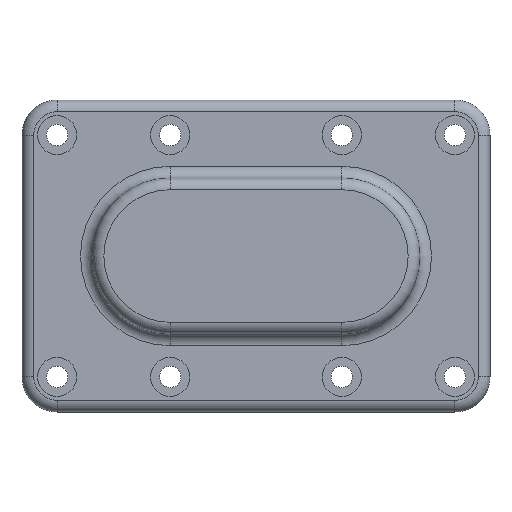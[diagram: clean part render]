
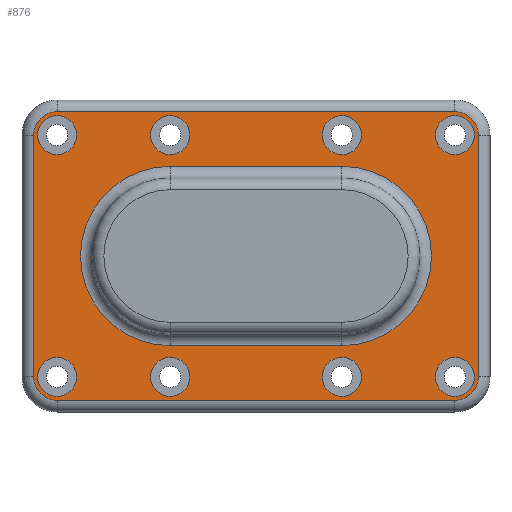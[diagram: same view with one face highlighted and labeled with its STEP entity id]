
A CAD part, left-side view. The second image highlights one B-rep face of the part: STEP entity #876.
In plain terms, the highlighted planar face has unit normal (-1, 0, 0).
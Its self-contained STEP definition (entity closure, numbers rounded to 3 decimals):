
#15=FACE_BOUND('',#145,.T.);
#16=FACE_BOUND('',#146,.T.);
#17=FACE_BOUND('',#147,.T.);
#18=FACE_BOUND('',#148,.T.);
#19=FACE_BOUND('',#149,.T.);
#20=FACE_BOUND('',#150,.T.);
#21=FACE_BOUND('',#151,.T.);
#22=FACE_BOUND('',#152,.T.);
#23=FACE_BOUND('',#153,.T.);
#54=PLANE('',#980);
#85=FACE_OUTER_BOUND('',#144,.T.);
#144=EDGE_LOOP('',(#642,#643,#644,#645,#646,#647,#648,#649));
#145=EDGE_LOOP('',(#650,#651,#652,#653));
#146=EDGE_LOOP('',(#654));
#147=EDGE_LOOP('',(#655));
#148=EDGE_LOOP('',(#656));
#149=EDGE_LOOP('',(#657));
#150=EDGE_LOOP('',(#658));
#151=EDGE_LOOP('',(#659));
#152=EDGE_LOOP('',(#660));
#153=EDGE_LOOP('',(#661));
#217=LINE('',#1416,#267);
#219=LINE('',#1428,#269);
#221=LINE('',#1440,#271);
#222=LINE('',#1448,#272);
#231=LINE('',#1471,#281);
#232=LINE('',#1475,#282);
#267=VECTOR('',#1108,10.);
#269=VECTOR('',#1122,10.);
#271=VECTOR('',#1136,10.);
#272=VECTOR('',#1147,10.);
#281=VECTOR('',#1170,10.);
#282=VECTOR('',#1173,10.);
#319=CIRCLE('',#952,6.);
#325=CIRCLE('',#960,6.);
#329=CIRCLE('',#966,6.);
#333=CIRCLE('',#972,6.);
#336=CIRCLE('',#981,23.);
#337=CIRCLE('',#982,23.);
#338=CIRCLE('',#983,5.);
#339=CIRCLE('',#984,5.);
#340=CIRCLE('',#985,5.);
#341=CIRCLE('',#986,5.);
#342=CIRCLE('',#987,5.);
#343=CIRCLE('',#988,5.);
#344=CIRCLE('',#989,5.);
#345=CIRCLE('',#990,5.);
#391=VERTEX_POINT('',#1404);
#392=VERTEX_POINT('',#1406);
#394=VERTEX_POINT('',#1412);
#396=VERTEX_POINT('',#1418);
#398=VERTEX_POINT('',#1424);
#400=VERTEX_POINT('',#1430);
#402=VERTEX_POINT('',#1436);
#404=VERTEX_POINT('',#1442);
#411=VERTEX_POINT('',#1469);
#412=VERTEX_POINT('',#1470);
#413=VERTEX_POINT('',#1472);
#414=VERTEX_POINT('',#1474);
#415=VERTEX_POINT('',#1477);
#416=VERTEX_POINT('',#1479);
#417=VERTEX_POINT('',#1481);
#418=VERTEX_POINT('',#1483);
#419=VERTEX_POINT('',#1485);
#420=VERTEX_POINT('',#1487);
#421=VERTEX_POINT('',#1489);
#422=VERTEX_POINT('',#1491);
#469=EDGE_CURVE('',#391,#392,#319,.T.);
#474=EDGE_CURVE('',#392,#394,#217,.T.);
#477=EDGE_CURVE('',#394,#396,#325,.T.);
#480=EDGE_CURVE('',#396,#398,#219,.T.);
#483=EDGE_CURVE('',#398,#400,#329,.T.);
#486=EDGE_CURVE('',#400,#402,#221,.T.);
#489=EDGE_CURVE('',#402,#404,#333,.T.);
#490=EDGE_CURVE('',#404,#391,#222,.T.);
#501=EDGE_CURVE('',#411,#412,#231,.T.);
#502=EDGE_CURVE('',#413,#411,#336,.T.);
#503=EDGE_CURVE('',#414,#413,#232,.T.);
#504=EDGE_CURVE('',#412,#414,#337,.T.);
#505=EDGE_CURVE('',#415,#415,#338,.T.);
#506=EDGE_CURVE('',#416,#416,#339,.T.);
#507=EDGE_CURVE('',#417,#417,#340,.T.);
#508=EDGE_CURVE('',#418,#418,#341,.T.);
#509=EDGE_CURVE('',#419,#419,#342,.T.);
#510=EDGE_CURVE('',#420,#420,#343,.T.);
#511=EDGE_CURVE('',#421,#421,#344,.T.);
#512=EDGE_CURVE('',#422,#422,#345,.T.);
#642=ORIENTED_EDGE('',*,*,#469,.F.);
#643=ORIENTED_EDGE('',*,*,#490,.F.);
#644=ORIENTED_EDGE('',*,*,#489,.F.);
#645=ORIENTED_EDGE('',*,*,#486,.F.);
#646=ORIENTED_EDGE('',*,*,#483,.F.);
#647=ORIENTED_EDGE('',*,*,#480,.F.);
#648=ORIENTED_EDGE('',*,*,#477,.F.);
#649=ORIENTED_EDGE('',*,*,#474,.F.);
#650=ORIENTED_EDGE('',*,*,#501,.F.);
#651=ORIENTED_EDGE('',*,*,#502,.F.);
#652=ORIENTED_EDGE('',*,*,#503,.F.);
#653=ORIENTED_EDGE('',*,*,#504,.F.);
#654=ORIENTED_EDGE('',*,*,#505,.T.);
#655=ORIENTED_EDGE('',*,*,#506,.T.);
#656=ORIENTED_EDGE('',*,*,#507,.T.);
#657=ORIENTED_EDGE('',*,*,#508,.T.);
#658=ORIENTED_EDGE('',*,*,#509,.T.);
#659=ORIENTED_EDGE('',*,*,#510,.T.);
#660=ORIENTED_EDGE('',*,*,#511,.T.);
#661=ORIENTED_EDGE('',*,*,#512,.T.);
#876=ADVANCED_FACE('',(#85,#15,#16,#17,#18,#19,#20,#21,#22,#23),#54,.F.);
#952=AXIS2_PLACEMENT_3D('',#1407,#1097,#1098);
#960=AXIS2_PLACEMENT_3D('',#1422,#1115,#1116);
#966=AXIS2_PLACEMENT_3D('',#1434,#1129,#1130);
#972=AXIS2_PLACEMENT_3D('',#1446,#1143,#1144);
#980=AXIS2_PLACEMENT_3D('',#1468,#1168,#1169);
#981=AXIS2_PLACEMENT_3D('',#1473,#1171,#1172);
#982=AXIS2_PLACEMENT_3D('',#1476,#1174,#1175);
#983=AXIS2_PLACEMENT_3D('',#1478,#1176,#1177);
#984=AXIS2_PLACEMENT_3D('',#1480,#1178,#1179);
#985=AXIS2_PLACEMENT_3D('',#1482,#1180,#1181);
#986=AXIS2_PLACEMENT_3D('',#1484,#1182,#1183);
#987=AXIS2_PLACEMENT_3D('',#1486,#1184,#1185);
#988=AXIS2_PLACEMENT_3D('',#1488,#1186,#1187);
#989=AXIS2_PLACEMENT_3D('',#1490,#1188,#1189);
#990=AXIS2_PLACEMENT_3D('',#1492,#1190,#1191);
#1097=DIRECTION('center_axis',(1.,0.,0.));
#1098=DIRECTION('ref_axis',(0.,0.707,-0.707));
#1108=DIRECTION('',(0.,0.,1.));
#1115=DIRECTION('center_axis',(1.,0.,0.));
#1116=DIRECTION('ref_axis',(0.,0.707,0.707));
#1122=DIRECTION('',(0.,-1.,0.));
#1129=DIRECTION('center_axis',(1.,0.,0.));
#1130=DIRECTION('ref_axis',(0.,-0.707,0.707));
#1136=DIRECTION('',(0.,0.,-1.));
#1143=DIRECTION('center_axis',(1.,0.,0.));
#1144=DIRECTION('ref_axis',(0.,-0.707,-0.707));
#1147=DIRECTION('',(0.,1.,0.));
#1168=DIRECTION('center_axis',(1.,0.,0.));
#1169=DIRECTION('ref_axis',(0.,0.,-1.));
#1170=DIRECTION('',(0.,1.,0.));
#1171=DIRECTION('center_axis',(-1.,0.,0.));
#1172=DIRECTION('ref_axis',(0.,-1.,0.));
#1173=DIRECTION('',(0.,-1.,0.));
#1174=DIRECTION('center_axis',(-1.,0.,0.));
#1175=DIRECTION('ref_axis',(0.,1.,0.));
#1176=DIRECTION('center_axis',(1.,0.,0.));
#1177=DIRECTION('ref_axis',(0.,0.,1.));
#1178=DIRECTION('center_axis',(1.,0.,0.));
#1179=DIRECTION('ref_axis',(0.,0.,1.));
#1180=DIRECTION('center_axis',(1.,0.,0.));
#1181=DIRECTION('ref_axis',(0.,0.,1.));
#1182=DIRECTION('center_axis',(1.,0.,0.));
#1183=DIRECTION('ref_axis',(0.,0.,1.));
#1184=DIRECTION('center_axis',(1.,0.,0.));
#1185=DIRECTION('ref_axis',(0.,0.,1.));
#1186=DIRECTION('center_axis',(1.,0.,0.));
#1187=DIRECTION('ref_axis',(0.,0.,1.));
#1188=DIRECTION('center_axis',(1.,0.,0.));
#1189=DIRECTION('ref_axis',(0.,0.,1.));
#1190=DIRECTION('center_axis',(1.,0.,0.));
#1191=DIRECTION('ref_axis',(0.,0.,1.));
#1404=CARTESIAN_POINT('',(-12.,51.,-37.));
#1406=CARTESIAN_POINT('',(-12.,57.,-31.));
#1407=CARTESIAN_POINT('Origin',(-12.,51.,-31.));
#1412=CARTESIAN_POINT('',(-12.,57.,31.));
#1416=CARTESIAN_POINT('',(-12.,57.,20.));
#1418=CARTESIAN_POINT('',(-12.,51.,37.));
#1422=CARTESIAN_POINT('Origin',(-12.,51.,31.));
#1424=CARTESIAN_POINT('',(-12.,-51.,37.));
#1428=CARTESIAN_POINT('',(-12.,-30.,37.));
#1430=CARTESIAN_POINT('',(-12.,-57.,31.));
#1434=CARTESIAN_POINT('Origin',(-12.,-51.,31.));
#1436=CARTESIAN_POINT('',(-12.,-57.,-31.));
#1440=CARTESIAN_POINT('',(-12.,-57.,-20.));
#1442=CARTESIAN_POINT('',(-12.,-51.,-37.));
#1446=CARTESIAN_POINT('Origin',(-12.,-51.,-31.));
#1448=CARTESIAN_POINT('',(-12.,30.,-37.));
#1468=CARTESIAN_POINT('Origin',(-12.,0.,0.));
#1469=CARTESIAN_POINT('',(-12.,-22.,23.));
#1470=CARTESIAN_POINT('',(-12.,22.,23.));
#1471=CARTESIAN_POINT('',(-12.,-11.,23.));
#1472=CARTESIAN_POINT('',(-12.,-22.,-23.));
#1473=CARTESIAN_POINT('Origin',(-12.,-22.,0.));
#1474=CARTESIAN_POINT('',(-12.,22.,-23.));
#1475=CARTESIAN_POINT('',(-12.,11.,-23.));
#1476=CARTESIAN_POINT('Origin',(-12.,22.,0.));
#1477=CARTESIAN_POINT('',(-12.,-51.,-36.));
#1478=CARTESIAN_POINT('Origin',(-12.,-51.,-31.));
#1479=CARTESIAN_POINT('',(-12.,-22.,26.));
#1480=CARTESIAN_POINT('Origin',(-12.,-22.,31.));
#1481=CARTESIAN_POINT('',(-12.,22.,-36.));
#1482=CARTESIAN_POINT('Origin',(-12.,22.,-31.));
#1483=CARTESIAN_POINT('',(-12.,51.,26.));
#1484=CARTESIAN_POINT('Origin',(-12.,51.,31.));
#1485=CARTESIAN_POINT('',(-12.,51.,-36.));
#1486=CARTESIAN_POINT('Origin',(-12.,51.,-31.));
#1487=CARTESIAN_POINT('',(-12.,22.,26.));
#1488=CARTESIAN_POINT('Origin',(-12.,22.,31.));
#1489=CARTESIAN_POINT('',(-12.,-22.,-36.));
#1490=CARTESIAN_POINT('Origin',(-12.,-22.,-31.));
#1491=CARTESIAN_POINT('',(-12.,-51.,26.));
#1492=CARTESIAN_POINT('Origin',(-12.,-51.,31.));
